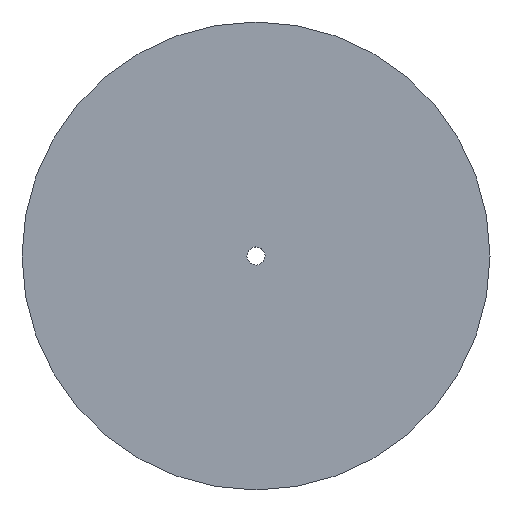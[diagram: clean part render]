
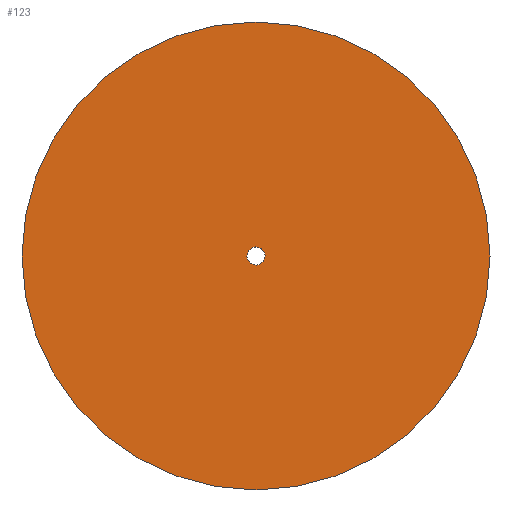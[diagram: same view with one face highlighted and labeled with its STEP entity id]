
A CAD part, top view. The second image highlights one B-rep face of the part: STEP entity #123.
In plain terms, the highlighted planar face has unit normal (0, 0, 1).
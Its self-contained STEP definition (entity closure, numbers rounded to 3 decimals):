
#62=CARTESIAN_POINT('Vertex',(-2.852,1.558,0.)) ;
#76=CARTESIAN_POINT('Vertex',(2.852,-1.558,0.)) ;
#79=CARTESIAN_POINT('Axis2P3D Location',(0.,0.,0.)) ;
#91=CARTESIAN_POINT('Axis2P3D Location',(0.,0.,0.)) ;
#96=CARTESIAN_POINT('Axis2P3D Location',(0.,0.,0.)) ;
#100=CARTESIAN_POINT('Vertex',(84.,0.,0.)) ;
#102=CARTESIAN_POINT('Vertex',(-84.,0.,0.)) ;
#105=CARTESIAN_POINT('Axis2P3D Location',(0.,0.,0.)) ;
#114=CARTESIAN_POINT('Axis2P3D Location',(0.,0.,0.)) ;
#80=DIRECTION('Axis2P3D Direction',(0.,-0.,-1.)) ;
#92=DIRECTION('Axis2P3D Direction',(0.,0.,1.)) ;
#93=DIRECTION('Axis2P3D XDirection',(1.,0.,0.)) ;
#97=DIRECTION('Axis2P3D Direction',(0.,0.,1.)) ;
#106=DIRECTION('Axis2P3D Direction',(0.,0.,1.)) ;
#115=DIRECTION('Axis2P3D Direction',(0.,0.,1.)) ;
#81=AXIS2_PLACEMENT_3D('Circle Axis2P3D',#79,#80,$) ;
#94=AXIS2_PLACEMENT_3D('Plane Axis2P3D',#91,#92,#93) ;
#98=AXIS2_PLACEMENT_3D('Circle Axis2P3D',#96,#97,$) ;
#107=AXIS2_PLACEMENT_3D('Circle Axis2P3D',#105,#106,$) ;
#116=AXIS2_PLACEMENT_3D('Circle Axis2P3D',#114,#115,$) ;
#111=ORIENTED_EDGE('',*,*,#104,.F.) ;
#112=ORIENTED_EDGE('',*,*,#109,.F.) ;
#120=ORIENTED_EDGE('',*,*,#118,.F.) ;
#121=ORIENTED_EDGE('',*,*,#83,.F.) ;
#122=FACE_BOUND('',#119,.T.) ;
#123=ADVANCED_FACE('PartBody',(#113,#122),#95,.T.) ;
#82=CIRCLE('generated circle',#81,3.25) ;
#99=CIRCLE('generated circle',#98,84.) ;
#108=CIRCLE('generated circle',#107,84.) ;
#117=CIRCLE('generated circle',#116,3.25) ;
#83=EDGE_CURVE('',#77,#63,#82,.F.) ;
#104=EDGE_CURVE('',#101,#103,#99,.F.) ;
#109=EDGE_CURVE('',#103,#101,#108,.F.) ;
#118=EDGE_CURVE('',#63,#77,#117,.T.) ;
#110=EDGE_LOOP('',(#111,#112)) ;
#119=EDGE_LOOP('',(#120,#121)) ;
#113=FACE_OUTER_BOUND('',#110,.T.) ;
#95=PLANE('',#94) ;
#63=VERTEX_POINT('',#62) ;
#77=VERTEX_POINT('',#76) ;
#101=VERTEX_POINT('',#100) ;
#103=VERTEX_POINT('',#102) ;
